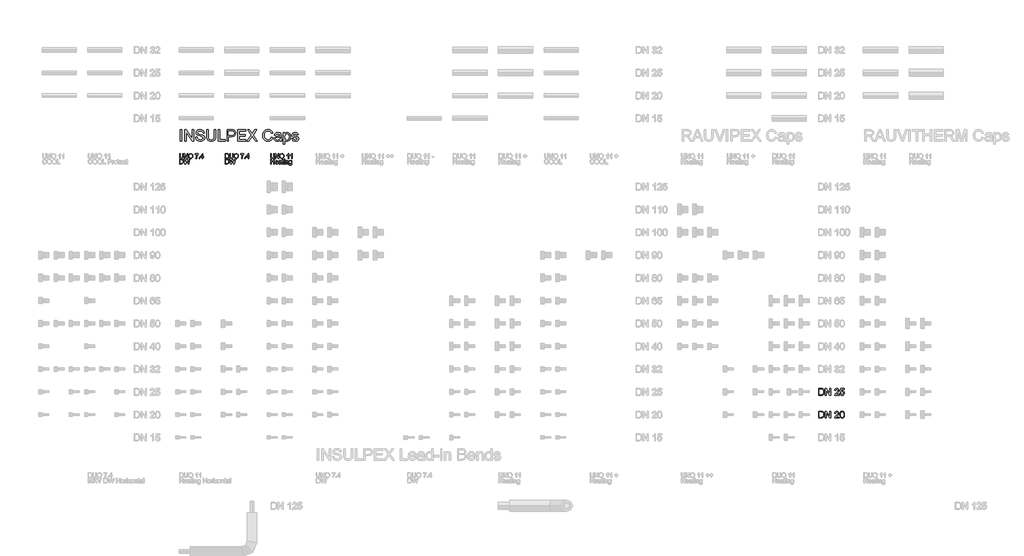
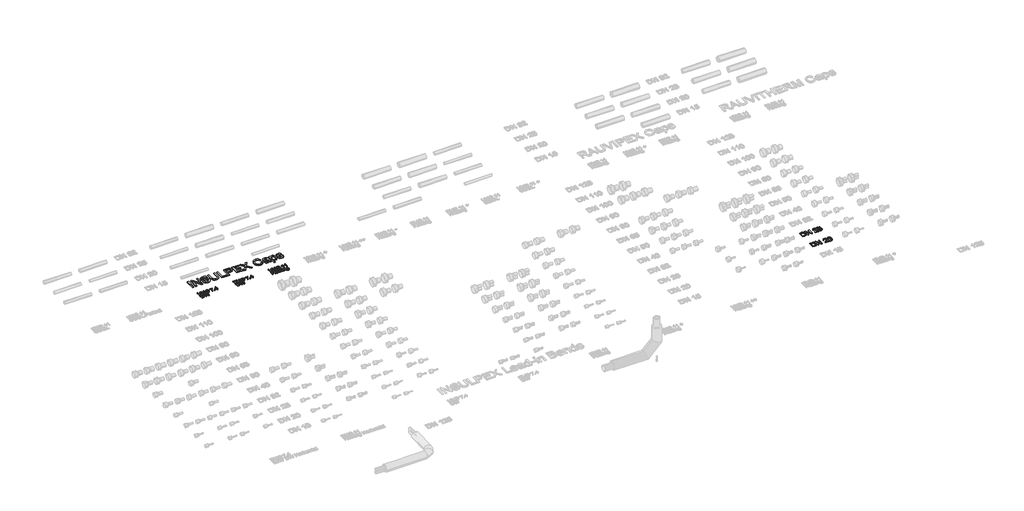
# One storey, part 23 of 44: 6 proxies.
"""IFC4 building model written with IfcOpenShell, lengths in millimetres."""

from ifc_helpers import new_model, si_unit, origin, origin_with_axes, place, context, project, spatial, polyline, outline, extrude, element, save

model = new_model("IFC4")

# Units and contexts
model_context = context("Model", 3, world=origin())
ifc_project = project(units=[si_unit("LENGTHUNIT", "METRE", prefix="MILLI")], contexts=[model_context])

# Site, building, storey
site = spatial("IfcSite", under=ifc_project)
building = spatial("IfcBuilding", under=site)
storey = spatial("IfcBuildingStorey", under=building, Name="REHAU Starting view", Elevation=0.0)

# Proxies
placement = place(None, origin())
element("IfcBuildingElementProxy", 1, Name="100", ObjectType="100", at=placement, inside=storey, context=model_context, shape_type="SweptSolid", body=[
    extrude(outline(polyline([(16076.9118625, 13222.431128), (16089.4689012, 13222.431128), (16089.4689012, 13164.477451), (16086.0598614, 13140.4547567), (16073.7726028, 13125.9847316), (16063.5086951, 13121.8000739), (16050.4734097, 13120.405188), (16027.529836, 13125.2612303), (16019.8901532, 13131.2055902), (16014.8011189, 13139.3265853), (16010.9874089, 13164.477451), (16010.9874089, 13222.431128), (16023.5444477, 13222.431128), (16023.5444477, 13164.9189094), (16026.0215198, 13145.7767829), (16034.5318566, 13136.2976902), (16049.2961874, 13132.9622268), (16062.067824, 13134.6115644), (16070.5597667, 13139.5595772), (16075.3238385, 13149.1980855), (16076.9118625, 13164.9189094), (16076.9118625, 13222.431128)])), origin_with_axes(), (0.0, 0.0, 1.0), 20.0),
    extrude(outline(polyline([(16111.4437191, 13121.9748178), (16111.4437191, 13222.431128), (16124.8836746, 13222.431128), (16177.3681726, 13142.8459897), (16177.3681726, 13222.431128), (16189.9252114, 13222.431128), (16189.9252114, 13121.9748178), (16176.4852558, 13121.9748178), (16124.0007578, 13201.5844816), (16124.0007578, 13121.9748178), (16111.4437191, 13121.9748178)])), origin_with_axes(), (0.0, 0.0, 1.0), 20.0),
    extrude(outline(polyline([(16207.1911397, 13170.8785977), (16210.5388658, 13193.0925389), (16220.5820443, 13209.8986147), (16235.9165921, 13220.4752221), (16255.1384264, 13224.0007578), (16268.3147332, 13222.3452889), (16280.1298766, 13217.3788819), (16289.9400631, 13209.4510249), (16297.1014993, 13198.9112058), (16301.479295, 13186.2683279), (16302.9385603, 13172.0312947), (16301.402653, 13157.6041891), (16296.794931, 13144.7835015), (16289.369846, 13134.2252883), (16279.3818499, 13126.5856055), (16267.667874, 13121.9502924), (16255.06485, 13120.405188), (16241.6862081, 13122.1127736), (16229.8036197, 13127.2355304), (16220.0179586, 13135.3105402), (16212.9300988, 13145.8748848), (16207.1911397, 13170.8785977)]), holes=[polyline([(16219.7481785, 13170.7559704), (16222.2589731, 13155.0412778), (16229.7913569, 13143.0667189), (16241.1129253, 13135.4883498), (16254.9912736, 13132.9622268), (16269.071957, 13135.5128753), (16280.4119195, 13143.1648208), (16287.889121, 13155.5072617), (16290.3815215, 13172.1293965), (16286.1140904, 13192.8534156), (16273.6428907, 13206.575414), (16255.2120028, 13211.4437191), (16241.7046022, 13209.0984714), (16230.2205526, 13202.0627282), (16222.366272, 13189.5455433), (16219.7481785, 13170.7559704)])]), origin_with_axes(), (0.0, 0.0, 1.0), 20.0),
    extrude(outline(polyline([(16354.7363452, 13208.3044594), (16354.7363452, 13220.8614981), (16420.6607988, 13220.8614981), (16420.6607988, 13210.7079551), (16401.9601307, 13183.6931539), (16387.6495211, 13149.2716619), (16382.9896824, 13121.9748178), (16370.4326437, 13121.9748178), (16375.4235761, 13150.3017315), (16389.121049, 13182.3197278), (16408.10376, 13208.3044594), (16354.7363452, 13208.3044594)])), origin_with_axes(), (0.0, 0.0, 1.0), 20.0),
    extrude(outline(polyline([(16437.9267271, 13121.9748178), (16437.9267271, 13134.5318566), (16450.4837658, 13134.5318566), (16450.4837658, 13121.9748178), (16437.9267271, 13121.9748178)])), origin_with_axes(), (0.0, 0.0, 1.0), 20.0),
    extrude(outline(polyline([(16511.6993298, 13121.9748178), (16511.6993298, 13145.5192655), (16466.1800643, 13145.5192655), (16466.1800643, 13158.0763043), (16514.8385895, 13220.8614981), (16524.2563686, 13220.8614981), (16524.2563686, 13158.0763043), (16536.8134074, 13158.0763043), (16536.8134074, 13145.5192655), (16524.2563686, 13145.5192655), (16524.2563686, 13121.9748178), (16511.6993298, 13121.9748178)]), holes=[polyline([(16511.6993298, 13158.0763043), (16511.6993298, 13196.8755921), (16481.6311081, 13158.0763043), (16511.6993298, 13158.0763043)])]), origin_with_axes(), (0.0, 0.0, 1.0), 20.0),
    extrude(outline(polyline([(16010.9874089, 13000.0), (16010.9874089, 13100.4563101), (16045.6418929, 13100.4563101), (16063.5700088, 13099.0093076), (16078.3343395, 13091.823346), (16090.2291907, 13074.6555196), (16094.1777908, 13050.7677153), (16091.5045149, 13030.4974174), (16084.6373844, 13015.8679767), (16075.4648599, 13006.756766), (16063.4596442, 13001.7167826), (16047.3096246, 13000.0), (16010.9874089, 13000.0)]), holes=[polyline([(16023.5444477, 13012.5570388), (16045.7645202, 13012.5570388), (16061.9268025, 13014.3719233), (16071.2464797, 13019.4977457), (16078.8861625, 13031.9689454), (16081.620752, 13050.9639191), (16080.2810484, 13064.6491293), (16076.2619376, 13074.7536214), (16063.2266522, 13085.8881831), (16045.4211637, 13087.8992714), (16023.5444477, 13087.8992714), (16023.5444477, 13012.5570388)])]), origin_with_axes(), (0.0, 0.0, 1.0), 20.0),
    extrude(outline(polyline([(16129.4208859, 13000.0), (16102.02594, 13100.4563101), (16114.9753862, 13100.4563101), (16130.8678884, 13034.4337547), (16135.7729817, 13014.0530922), (16141.0214315, 13032.07931), (16160.9361102, 13100.4563101), (16179.59999, 13100.4563101), (16194.0700152, 13050.8903427), (16204.8366949, 13014.0530922), (16209.5946354, 13033.8451436), (16225.6342904, 13100.4563101), (16238.5837366, 13100.4563101), (16211.1642652, 13000.0), (16197.7488351, 13000.0), (16173.6648272, 13077.5004737), (16170.3048383, 13088.3162043), (16166.5279165, 13075.2931817), (16144.5776241, 13000.0), (16129.4208859, 13000.0)])), origin_with_axes(), (0.0, 0.0, 1.0), 20.0),
])
element("IfcBuildingElementProxy", 2, Name="100", ObjectType="100", at=placement, inside=storey, context=model_context, shape_type="SweptSolid", body=[
    extrude(outline(polyline([(17010.9874089, 13121.9748178), (17010.9874089, 13222.431128), (17045.6418929, 13222.431128), (17063.5700088, 13220.9841255), (17078.3343395, 13213.7981638), (17090.2291907, 13196.6303374), (17094.1777908, 13172.7425332), (17091.5045149, 13152.4722352), (17084.6373844, 13137.8427946), (17075.4648599, 13128.7315838), (17063.4596442, 13123.6916005), (17047.3096246, 13121.9748178), (17010.9874089, 13121.9748178)]), holes=[polyline([(17023.5444477, 13134.5318566), (17045.7645202, 13134.5318566), (17061.9268025, 13136.3467411), (17071.2464797, 13141.4725636), (17078.8861625, 13153.9437632), (17081.620752, 13172.9387369), (17080.2810484, 13186.6239471), (17076.2619376, 13196.7284393), (17063.2266522, 13207.863001), (17045.4211637, 13209.8740892), (17023.5444477, 13209.8740892), (17023.5444477, 13134.5318566)])]), origin_with_axes(), (0.0, 0.0, 1.0), 20.0),
    extrude(outline(polyline([(17177.3681726, 13222.431128), (17189.9252114, 13222.431128), (17189.9252114, 13164.477451), (17186.5161716, 13140.4547567), (17174.2289129, 13125.9847316), (17163.9650053, 13121.8000739), (17150.9297199, 13120.405188), (17127.9861461, 13125.2612303), (17120.3464634, 13131.2055902), (17115.2574291, 13139.3265853), (17111.4437191, 13164.477451), (17111.4437191, 13222.431128), (17124.0007578, 13222.431128), (17124.0007578, 13164.9189094), (17126.4778299, 13145.7767829), (17134.9881668, 13136.2976902), (17149.7524975, 13132.9622268), (17162.5241341, 13134.6115644), (17171.0160768, 13139.5595772), (17175.7801487, 13149.1980855), (17177.3681726, 13164.9189094), (17177.3681726, 13222.431128)])), origin_with_axes(), (0.0, 0.0, 1.0), 20.0),
    extrude(outline(polyline([(17207.1911397, 13170.8785977), (17210.5388658, 13193.0925389), (17220.5820443, 13209.8986147), (17235.9165921, 13220.4752221), (17255.1384264, 13224.0007578), (17268.3147332, 13222.3452889), (17280.1298766, 13217.3788819), (17289.9400631, 13209.4510249), (17297.1014993, 13198.9112058), (17301.479295, 13186.2683279), (17302.9385603, 13172.0312947), (17301.402653, 13157.6041891), (17296.794931, 13144.7835015), (17289.369846, 13134.2252883), (17279.3818499, 13126.5856055), (17267.667874, 13121.9502924), (17255.06485, 13120.405188), (17241.6862081, 13122.1127736), (17229.8036197, 13127.2355304), (17220.0179586, 13135.3105402), (17212.9300988, 13145.8748848), (17207.1911397, 13170.8785977)]), holes=[polyline([(17219.7481785, 13170.7559704), (17222.2589731, 13155.0412778), (17229.7913569, 13143.0667189), (17241.1129253, 13135.4883498), (17254.9912736, 13132.9622268), (17269.071957, 13135.5128753), (17280.4119195, 13143.1648208), (17287.889121, 13155.5072617), (17290.3815215, 13172.1293965), (17286.1140904, 13192.8534156), (17273.6428907, 13206.575414), (17255.2120028, 13211.4437191), (17241.7046022, 13209.0984714), (17230.2205526, 13202.0627282), (17222.366272, 13189.5455433), (17219.7481785, 13170.7559704)])]), origin_with_axes(), (0.0, 0.0, 1.0), 20.0),
    extrude(outline(polyline([(17354.7363452, 13208.3044594), (17354.7363452, 13220.8614981), (17420.6607988, 13220.8614981), (17420.6607988, 13210.7079551), (17401.9601307, 13183.6931539), (17387.6495211, 13149.2716619), (17382.9896824, 13121.9748178), (17370.4326437, 13121.9748178), (17375.4235761, 13150.3017315), (17389.121049, 13182.3197278), (17408.10376, 13208.3044594), (17354.7363452, 13208.3044594)])), origin_with_axes(), (0.0, 0.0, 1.0), 20.0),
    extrude(outline(polyline([(17437.9267271, 13121.9748178), (17437.9267271, 13134.5318566), (17450.4837658, 13134.5318566), (17450.4837658, 13121.9748178), (17437.9267271, 13121.9748178)])), origin_with_axes(), (0.0, 0.0, 1.0), 20.0),
    extrude(outline(polyline([(17511.6993298, 13121.9748178), (17511.6993298, 13145.5192655), (17466.1800643, 13145.5192655), (17466.1800643, 13158.0763043), (17514.8385895, 13220.8614981), (17524.2563686, 13220.8614981), (17524.2563686, 13158.0763043), (17536.8134074, 13158.0763043), (17536.8134074, 13145.5192655), (17524.2563686, 13145.5192655), (17524.2563686, 13121.9748178), (17511.6993298, 13121.9748178)]), holes=[polyline([(17511.6993298, 13158.0763043), (17511.6993298, 13196.8755921), (17481.6311081, 13158.0763043), (17511.6993298, 13158.0763043)])]), origin_with_axes(), (0.0, 0.0, 1.0), 20.0),
    extrude(outline(polyline([(17010.9874089, 13000.0), (17010.9874089, 13100.4563101), (17045.6418929, 13100.4563101), (17063.5700088, 13099.0093076), (17078.3343395, 13091.823346), (17090.2291907, 13074.6555196), (17094.1777908, 13050.7677153), (17091.5045149, 13030.4974174), (17084.6373844, 13015.8679767), (17075.4648599, 13006.756766), (17063.4596442, 13001.7167826), (17047.3096246, 13000.0), (17010.9874089, 13000.0)]), holes=[polyline([(17023.5444477, 13012.5570388), (17045.7645202, 13012.5570388), (17061.9268025, 13014.3719233), (17071.2464797, 13019.4977457), (17078.8861625, 13031.9689454), (17081.620752, 13050.9639191), (17080.2810484, 13064.6491293), (17076.2619376, 13074.7536214), (17063.2266522, 13085.8881831), (17045.4211637, 13087.8992714), (17023.5444477, 13087.8992714), (17023.5444477, 13012.5570388)])]), origin_with_axes(), (0.0, 0.0, 1.0), 20.0),
    extrude(outline(polyline([(17129.4208859, 13000.0), (17102.02594, 13100.4563101), (17114.9753862, 13100.4563101), (17130.8678884, 13034.4337547), (17135.7729817, 13014.0530922), (17141.0214315, 13032.07931), (17160.9361102, 13100.4563101), (17179.59999, 13100.4563101), (17194.0700152, 13050.8903427), (17204.8366949, 13014.0530922), (17209.5946354, 13033.8451436), (17225.6342904, 13100.4563101), (17238.5837366, 13100.4563101), (17211.1642652, 13000.0), (17197.7488351, 13000.0), (17173.6648272, 13077.5004737), (17170.3048383, 13088.3162043), (17166.5279165, 13075.2931817), (17144.5776241, 13000.0), (17129.4208859, 13000.0)])), origin_with_axes(), (0.0, 0.0, 1.0), 20.0),
])
element("IfcBuildingElementProxy", 3, Name="100", ObjectType="100", at=placement, inside=storey, context=model_context, shape_type="SweptSolid", body=[
    extrude(outline(polyline([(18076.9118625, 13222.431128), (18089.4689012, 13222.431128), (18089.4689012, 13164.477451), (18086.0598614, 13140.4547567), (18073.7726028, 13125.9847316), (18063.5086951, 13121.8000739), (18050.4734097, 13120.405188), (18027.529836, 13125.2612303), (18019.8901532, 13131.2055902), (18014.8011189, 13139.3265853), (18010.9874089, 13164.477451), (18010.9874089, 13222.431128), (18023.5444477, 13222.431128), (18023.5444477, 13164.9189094), (18026.0215198, 13145.7767829), (18034.5318566, 13136.2976902), (18049.2961874, 13132.9622268), (18062.067824, 13134.6115644), (18070.5597667, 13139.5595772), (18075.3238385, 13149.1980855), (18076.9118625, 13164.9189094), (18076.9118625, 13222.431128)])), origin_with_axes(), (0.0, 0.0, 1.0), 20.0),
    extrude(outline(polyline([(18111.4437191, 13121.9748178), (18111.4437191, 13222.431128), (18124.8836746, 13222.431128), (18177.3681726, 13142.8459897), (18177.3681726, 13222.431128), (18189.9252114, 13222.431128), (18189.9252114, 13121.9748178), (18176.4852558, 13121.9748178), (18124.0007578, 13201.5844816), (18124.0007578, 13121.9748178), (18111.4437191, 13121.9748178)])), origin_with_axes(), (0.0, 0.0, 1.0), 20.0),
    extrude(outline(polyline([(18207.1911397, 13170.8785977), (18210.5388658, 13193.0925389), (18220.5820443, 13209.8986147), (18235.9165921, 13220.4752221), (18255.1384264, 13224.0007578), (18268.3147332, 13222.3452889), (18280.1298766, 13217.3788819), (18289.9400631, 13209.4510249), (18297.1014993, 13198.9112058), (18301.479295, 13186.2683279), (18302.9385603, 13172.0312947), (18301.402653, 13157.6041891), (18296.794931, 13144.7835015), (18289.369846, 13134.2252883), (18279.3818499, 13126.5856055), (18267.667874, 13121.9502924), (18255.06485, 13120.405188), (18241.6862081, 13122.1127736), (18229.8036197, 13127.2355304), (18220.0179586, 13135.3105402), (18212.9300988, 13145.8748848), (18207.1911397, 13170.8785977)]), holes=[polyline([(18219.7481785, 13170.7559704), (18222.2589731, 13155.0412778), (18229.7913569, 13143.0667189), (18241.1129253, 13135.4883498), (18254.9912736, 13132.9622268), (18269.071957, 13135.5128753), (18280.4119195, 13143.1648208), (18287.889121, 13155.5072617), (18290.3815215, 13172.1293965), (18286.1140904, 13192.8534156), (18273.6428907, 13206.575414), (18255.2120028, 13211.4437191), (18241.7046022, 13209.0984714), (18230.2205526, 13202.0627282), (18222.366272, 13189.5455433), (18219.7481785, 13170.7559704)])]), origin_with_axes(), (0.0, 0.0, 1.0), 20.0),
    extrude(outline(polyline([(18401.8252406, 13121.9748178), (18389.2682018, 13121.9748178), (18389.2682018, 13200.2601064), (18377.3733507, 13191.7865578), (18364.1541243, 13185.4467247), (18364.1541243, 13197.3170505), (18382.5604868, 13209.0647488), (18393.7318367, 13222.431128), (18401.8252406, 13222.431128), (18401.8252406, 13121.9748178)])), origin_with_axes(), (0.0, 0.0, 1.0), 20.0),
    extrude(outline(polyline([(18478.7371031, 13121.9748178), (18466.1800643, 13121.9748178), (18466.1800643, 13200.2601064), (18454.2852131, 13191.7865578), (18441.0659868, 13185.4467247), (18441.0659868, 13197.3170505), (18459.4723492, 13209.0647488), (18470.6436992, 13222.431128), (18478.7371031, 13222.431128), (18478.7371031, 13121.9748178)])), origin_with_axes(), (0.0, 0.0, 1.0), 20.0),
    extrude(outline(polyline([(18010.9874089, 13000.0), (18010.9874089, 13100.4563101), (18023.5444477, 13100.4563101), (18023.5444477, 13059.6459342), (18076.9118625, 13059.6459342), (18076.9118625, 13100.4563101), (18089.4689012, 13100.4563101), (18089.4689012, 13000.0), (18076.9118625, 13000.0), (18076.9118625, 13047.0888954), (18023.5444477, 13047.0888954), (18023.5444477, 13000.0), (18010.9874089, 13000.0)])), origin_with_axes(), (0.0, 0.0, 1.0), 20.0),
    extrude(outline(polyline([(18161.5247213, 13021.9748178), (18173.8365055, 13020.405188), (18169.4004617, 13011.1284304), (18162.321799, 13004.1938547), (18152.7599328, 12999.8712413), (18140.8742787, 12998.4303702), (18126.1406048, 13000.9166393), (18114.803708, 13008.3754468), (18107.5748268, 13020.3224146), (18105.1651997, 13036.2731647), (18107.5993522, 13052.7604095), (18114.9018098, 13065.0905877), (18126.0854225, 13072.7793214), (18140.1630402, 13075.3422326), (18153.8022651, 13072.7854527), (18164.7007692, 13065.1151131), (18171.846877, 13052.8094604), (18174.2289129, 13036.3467411), (18174.1553365, 13032.9622268), (18117.7222385, 13032.9622268), (18119.8958079, 13023.5628418), (18124.9449883, 13016.6527916), (18132.2321175, 13012.4037546), (18141.1195333, 13010.9874089), (18153.4313175, 13013.6116338), (18161.5247213, 13021.9748178)]), holes=[polyline([(18117.7222385, 13045.5192655), (18161.6718741, 13045.5192655), (18156.6441535, 13056.8990819), (18149.3233018, 13061.3136659), (18140.1139892, 13062.7851938), (18124.6506827, 13058.088567), (18119.7854433, 13052.5979283), (18117.7222385, 13045.5192655)])]), origin_with_axes(), (0.0, 0.0, 1.0), 20.0),
    extrude(outline(polyline([(18233.8748471, 13009.4177791), (18221.697953, 13000.9074423), (18208.2457347, 12998.4303702), (18197.7519008, 12999.9202922), (18190.0110505, 13004.3900585), (18185.2377816, 13011.1774813), (18183.646692, 13019.6203731), (18186.0501877, 13029.5531869), (18192.3654953, 13036.7636741), (18201.157875, 13040.8839524), (18212.0226566, 13042.7724133), (18233.8012707, 13047.0888954), (18233.8748471, 13049.8847985), (18230.4167563, 13059.1554248), (18216.5353424, 13062.7851938), (18203.8311508, 13060.3694354), (18197.7733606, 13051.7977849), (18185.2163218, 13053.3674148), (18190.6487126, 13065.6301479), (18201.5870706, 13072.8161096), (18218.1540231, 13075.3422326), (18233.372075, 13073.1104152), (18241.968251, 13067.5063461), (18245.8187492, 13058.9837466), (18246.4318858, 13047.9963376), (18246.4318858, 13032.3736156), (18247.069548, 13010.5582133), (18249.5711455, 13000.0), (18237.0141068, 13000.0), (18233.8748471, 13009.4177791)]), holes=[polyline([(18233.8748471, 13034.5318566), (18213.6168119, 13030.6813584), (18202.8133439, 13028.6457447), (18197.9205134, 13025.3348067), (18196.2037308, 13020.5032899), (18199.9438644, 13013.7097357), (18210.9190106, 13010.9874089), (18223.6232021, 13013.9917785), (18231.8147079, 13021.2635793), (18233.8012707, 13030.975664), (18233.8748471, 13034.5318566)])]), origin_with_axes(), (0.0, 0.0, 1.0), 20.0),
    extrude(outline(polyline([(18290.3815215, 13010.4723741), (18291.9511514, 12999.632118), (18282.5578978, 12998.4303702), (18272.0364727, 13000.5150348), (18266.7880229, 13005.9842138), (18265.267444, 13020.2335097), (18265.267444, 13061.215564), (18255.8496649, 13061.215564), (18255.8496649, 13073.7726028), (18265.267444, 13073.7726028), (18265.267444, 13091.7007187), (18277.8244828, 13099.082884), (18277.8244828, 13073.7726028), (18290.3815215, 13073.7726028), (18290.3815215, 13061.215564), (18277.8244828, 13061.215564), (18277.8244828, 13020.6013917), (18278.4866703, 13014.1266686), (18280.6326487, 13011.8335375), (18284.9123425, 13010.9874089), (18290.3815215, 13010.4723741)])), origin_with_axes(), (0.0, 0.0, 1.0), 20.0),
    extrude(outline(polyline([(18302.9385603, 13087.8992714), (18302.9385603, 13100.4563101), (18315.4955991, 13100.4563101), (18315.4955991, 13087.8992714), (18302.9385603, 13087.8992714)])), origin_with_axes(), (0.0, 0.0, 1.0), 20.0),
    extrude(outline(polyline([(18302.9385603, 13000.0), (18302.9385603, 13073.7726028), (18315.4955991, 13073.7726028), (18315.4955991, 13000.0), (18302.9385603, 13000.0)])), origin_with_axes(), (0.0, 0.0, 1.0), 20.0),
    extrude(outline(polyline([(18334.3311572, 13000.0), (18334.3311572, 13073.7726028), (18346.888196, 13073.7726028), (18346.888196, 13063.4719069), (18356.4899161, 13072.3746512), (18369.5987778, 13075.3422326), (18381.4568408, 13072.9509996), (18389.5502447, 13066.6724803), (18393.3149038, 13057.4386422), (18393.9770914, 13045.2985363), (18393.9770914, 13000.0), (18381.4200526, 13000.0), (18381.4200526, 13043.6062792), (18379.9730501, 13054.7163154), (18374.8594904, 13060.5901646), (18366.2387889, 13062.7851938), (18352.6148924, 13057.8555751), (18348.3198701, 13050.712533), (18346.888196, 13039.1426443), (18346.888196, 13000.0), (18334.3311572, 13000.0)])), origin_with_axes(), (0.0, 0.0, 1.0), 20.0),
    extrude(outline(polyline([(18408.10376, 12993.7214806), (18420.6607988, 12992.1518508), (18424.7320262, 12985.5299749), (18436.9211829, 12982.7340717), (18449.7725273, 12985.8978569), (18455.9038939, 12994.7760757), (18456.7622852, 13009.4177791), (18447.9208546, 13002.3544448), (18437.1419121, 13000.0), (18424.1955316, 13002.7407209), (18414.5416949, 13010.9628835), (18408.5360213, 13023.0171502), (18406.5341301, 13037.2541834), (18410.127111, 13056.7151409), (18420.5259087, 13070.4861903), (18436.5287755, 13075.3422326), (18447.7307822, 13072.5953804), (18456.7622852, 13064.3548237), (18456.7622852, 13073.7726028), (18469.319324, 13073.7726028), (18469.319324, 13010.0799667), (18465.8857587, 12985.6893904), (18455.0087144, 12974.3463622), (18436.6759283, 12970.1770329), (18424.9926092, 12971.6454952), (18415.7924937, 12976.0508821), (18409.8910533, 12983.4054563), (18408.10376, 12993.7214806)]), holes=[polyline([(18419.0911689, 13038.1125747), (18420.4308725, 13026.5948026), (18424.4499833, 13018.6761426), (18430.4924451, 13014.0868147), (18437.9022016, 13012.5570388), (18445.2567758, 13014.0776177), (18451.3298944, 13018.6393544), (18455.4041875, 13026.4568468), (18456.7622852, 13037.7446927), (18455.3643336, 13048.6309341), (18451.1704789, 13056.4698863), (18445.0084555, 13061.2063669), (18437.7059979, 13062.7851938), (18430.5353646, 13061.2308924), (18424.5235597, 13056.5679881), (18420.4492666, 13048.8455319), (18419.0911689, 13038.1125747)])]), origin_with_axes(), (0.0, 0.0, 1.0), 20.0),
])
element("IfcBuildingElementProxy", 4, Name="150", ObjectType="150", at=placement, inside=storey, context=model_context, shape_type="SweptSolid", body=[
    extrude(outline(polyline([(30016.4811134, 7425.0), (30016.4811134, 7575.6844652), (30068.4628393, 7575.6844652), (30095.3550131, 7573.5139615), (30117.5015093, 7562.735019), (30127.9217668, 7551.2571007), (30135.343786, 7536.9832793), (30139.7859611, 7520.1894663), (30141.2666861, 7501.151573), (30137.2567724, 7470.7461261), (30126.9560765, 7448.8019651), (30113.1972899, 7435.135149), (30095.1894663, 7427.575174), (30070.9644369, 7425.0), (30016.4811134, 7425.0)]), holes=[polyline([(30035.3166715, 7443.8355582), (30068.6467803, 7443.8355582), (30092.8902038, 7446.5578849), (30106.8697196, 7454.2466186), (30118.3292437, 7472.9534181), (30122.431128, 7501.4458786), (30120.4215726, 7521.9736939), (30114.3929064, 7537.1304321), (30105.4855636, 7547.5414926), (30094.8399784, 7553.8322747), (30068.1317455, 7556.8489071), (30035.3166715, 7556.8489071), (30035.3166715, 7443.8355582)])]), origin_with_axes(), (0.0, 0.0, 1.0), 20.0),
    extrude(outline(polyline([(30167.1655786, 7425.0), (30167.1655786, 7575.6844652), (30187.3255119, 7575.6844652), (30266.0522589, 7456.3067578), (30266.0522589, 7575.6844652), (30284.8878171, 7575.6844652), (30284.8878171, 7425.0), (30264.7278837, 7425.0), (30186.0011368, 7544.4144956), (30186.0011368, 7425.0), (30167.1655786, 7425.0)])), origin_with_axes(), (0.0, 0.0, 1.0), 20.0),
    extrude(outline(polyline([(30466.1800643, 7443.8355582), (30466.1800643, 7425.0), (30367.293384, 7425.0), (30369.316735, 7437.9862344), (30380.757865, 7457.9806209), (30404.3391009, 7479.8144173), (30436.8598693, 7511.1947515), (30442.9575133, 7522.0104821), (30444.9900614, 7532.5319072), (30443.0724765, 7541.9634818), (30437.3197218, 7549.8039669), (30428.4767583, 7555.087672), (30417.2885471, 7556.8489071), (30405.5393159, 7555.1290587), (30396.4112439, 7549.9695138), (30390.5205335, 7541.7749423), (30388.4833869, 7530.9500146), (30369.6478288, 7533.3044594), (30374.214164, 7551.5238152), (30384.0871971, 7564.8319464), (30398.7518931, 7572.9713355), (30417.6932173, 7575.6844652), (30436.7724973, 7572.6678329), (30451.4096022, 7563.6179358), (30460.7216152, 7550.0982725), (30463.8256195, 7533.6723414), (30460.4778934, 7515.8116705), (30449.349463, 7497.3439944), (30422.3653187, 7471.5370724), (30400.6970691, 7453.4188841), (30392.1989951, 7443.8355582), (30466.1800643, 7443.8355582)])), origin_with_axes(), (0.0, 0.0, 1.0), 20.0),
    extrude(outline(polyline([(30485.0156224, 7499.128222), (30486.3997784, 7523.2474853), (30490.5522465, 7542.4831152), (30497.4316398, 7557.1294171), (30506.9965717, 7567.4806967), (30519.31602, 7573.6335231), (30534.4589626, 7575.6844652), (30556.4583059, 7570.8284229), (30571.6518323, 7556.830513), (30580.4810002, 7534.5368641), (30583.9023027, 7499.128222), (30582.5319423, 7475.1469145), (30578.420861, 7455.9572699), (30571.5828544, 7441.2971724), (30562.0317181, 7430.904506), (30549.6846787, 7424.7102929), (30534.4589626, 7422.6455552), (30514.8876404, 7426.2324047), (30500.0252078, 7436.992953), (30488.7680188, 7462.4779783), (30485.0156224, 7499.128222)]), holes=[polyline([(30503.8511806, 7499.1650102), (30506.0584726, 7469.536714), (30512.6803485, 7452.3888145), (30522.5395859, 7444.2080387), (30534.4589626, 7441.4811134), (30546.3783392, 7444.2172357), (30556.2375767, 7452.4256027), (30562.8594526, 7469.5826993), (30565.0667446, 7499.1650102), (30562.933029, 7528.1265203), (30556.5318823, 7545.407777), (30546.6910389, 7553.9886246), (30534.2382334, 7556.8489071), (30522.4476155, 7554.3289154), (30512.9746541, 7546.7689404), (30506.132049, 7528.4116288), (30503.8511806, 7499.1650102)])]), origin_with_axes(), (0.0, 0.0, 1.0), 20.0),
])
element("IfcBuildingElementProxy", 5, Name="150", ObjectType="150", at=placement, inside=storey, context=model_context, shape_type="SweptSolid", body=[
    extrude(outline(polyline([(30016.4811134, 7925.0), (30016.4811134, 8075.6844652), (30068.4628393, 8075.6844652), (30095.3550131, 8073.5139615), (30117.5015093, 8062.735019), (30127.9217668, 8051.2571007), (30135.343786, 8036.9832793), (30139.7859611, 8020.1894663), (30141.2666861, 8001.151573), (30137.2567724, 7970.7461261), (30126.9560765, 7948.8019651), (30113.1972899, 7935.135149), (30095.1894663, 7927.575174), (30070.9644369, 7925.0), (30016.4811134, 7925.0)]), holes=[polyline([(30035.3166715, 7943.8355582), (30068.6467803, 7943.8355582), (30092.8902038, 7946.5578849), (30106.8697196, 7954.2466186), (30118.3292437, 7972.9534181), (30122.431128, 8001.4458786), (30120.4215726, 8021.9736939), (30114.3929064, 8037.1304321), (30105.4855636, 8047.5414926), (30094.8399784, 8053.8322747), (30068.1317455, 8056.8489071), (30035.3166715, 8056.8489071), (30035.3166715, 7943.8355582)])]), origin_with_axes(), (0.0, 0.0, 1.0), 20.0),
    extrude(outline(polyline([(30167.1655786, 7925.0), (30167.1655786, 8075.6844652), (30187.3255119, 8075.6844652), (30266.0522589, 7956.3067578), (30266.0522589, 8075.6844652), (30284.8878171, 8075.6844652), (30284.8878171, 7925.0), (30264.7278837, 7925.0), (30186.0011368, 8044.4144956), (30186.0011368, 7925.0), (30167.1655786, 7925.0)])), origin_with_axes(), (0.0, 0.0, 1.0), 20.0),
    extrude(outline(polyline([(30466.1800643, 7943.8355582), (30466.1800643, 7925.0), (30367.293384, 7925.0), (30369.316735, 7937.9862344), (30380.757865, 7957.9806209), (30404.3391009, 7979.8144173), (30436.8598693, 8011.1947515), (30442.9575133, 8022.0104821), (30444.9900614, 8032.5319072), (30443.0724765, 8041.9634818), (30437.3197218, 8049.8039669), (30428.4767583, 8055.087672), (30417.2885471, 8056.8489071), (30405.5393159, 8055.1290587), (30396.4112439, 8049.9695138), (30390.5205335, 8041.7749423), (30388.4833869, 8030.9500146), (30369.6478288, 8033.3044594), (30374.214164, 8051.5238152), (30384.0871971, 8064.8319464), (30398.7518931, 8072.9713355), (30417.6932173, 8075.6844652), (30436.7724973, 8072.6678329), (30451.4096022, 8063.6179358), (30460.7216152, 8050.0982725), (30463.8256195, 8033.6723414), (30460.4778934, 8015.8116705), (30449.349463, 7997.3439944), (30422.3653187, 7971.5370724), (30400.6970691, 7953.4188841), (30392.1989951, 7943.8355582), (30466.1800643, 7943.8355582)])), origin_with_axes(), (0.0, 0.0, 1.0), 20.0),
    extrude(outline(polyline([(30485.0156224, 7965.0255611), (30503.8511806, 7967.3800058), (30507.3092713, 7956.072233), (30513.3425361, 7947.9742306), (30521.9233836, 7943.1043927), (30533.0242228, 7941.4811134), (30546.525492, 7943.7389891), (30556.6422469, 7950.5126164), (30562.9606202, 7961.0202459), (30565.0667446, 7974.4801284), (30563.0939774, 7987.1536631), (30557.1756758, 7996.8473537), (30547.2658545, 8003.00018), (30533.3185284, 8005.0511222), (30516.7822327, 8001.7769724), (30506.2056254, 7993.2788983), (30487.3700672, 7995.6333431), (30503.8511806, 8073.3300205), (30576.8389684, 8073.3300205), (30576.8389684, 8054.4944623), (30519.0814952, 8054.4944623), (30511.0248795, 8012.9973732), (30524.4801635, 8021.1643535), (30538.5792409, 8023.8866803), (30556.1777959, 8020.511363), (30570.7873096, 8010.3854111), (30580.6235545, 7994.9527614), (30583.9023027, 7975.6573507), (30580.9500497, 7956.8217926), (30572.0932907, 7940.7085612), (30555.1339307, 7927.1613067), (30532.9506464, 7922.6455552), (30514.4507806, 7925.5472245), (30499.7125081, 7934.2522322), (30489.6095489, 7947.7489029), (30485.0156224, 7965.0255611)])), origin_with_axes(), (0.0, 0.0, 1.0), 20.0),
])
element("IfcBuildingElementProxy", 6, Name="250", ObjectType="250", at=placement, inside=storey, context=model_context, shape_type="SweptSolid", body=[
    extrude(outline(polyline([(16031.3925969, 13500.0), (16031.3925969, 13751.1407754), (16062.7851938, 13751.1407754), (16062.7851938, 13500.0), (16031.3925969, 13500.0)])), origin_with_axes(), (0.0, 0.0, 1.0), 20.0),
    extrude(outline(polyline([(16125.5703877, 13500.0), (16125.5703877, 13751.1407754), (16159.1702766, 13751.1407754), (16290.3815215, 13552.1779296), (16290.3815215, 13751.1407754), (16321.7741184, 13751.1407754), (16321.7741184, 13500.0), (16288.1742296, 13500.0), (16156.9629846, 13699.0241594), (16156.9629846, 13500.0), (16125.5703877, 13500.0)])), origin_with_axes(), (0.0, 0.0, 1.0), 20.0),
    extrude(outline(polyline([(16364.9389392, 13586.3296415), (16396.3315361, 13586.3296415), (16399.933714, 13568.9088962), (16406.448291, 13554.9063878), (16416.6110311, 13543.7932858), (16431.1576983, 13535.04076), (16448.9386614, 13529.3615817), (16468.8042892, 13527.4685223), (16486.2940124, 13528.9017292), (16501.6071004, 13533.2013501), (16514.0154536, 13540.007167), (16522.790972, 13548.9589622), (16528.0102978, 13559.2366654), (16529.7500731, 13570.0202064), (16524.5384115, 13589.6099227), (16516.5982917, 13597.3584372), (16503.2012557, 13603.86535), (16457.4919178, 13615.8521716), (16408.287701, 13631.3338723), (16392.6603804, 13641.8951512), (16381.5855995, 13654.694379), (16374.9867162, 13669.455644), (16372.7870884, 13685.9030349), (16375.5078824, 13704.2894704), (16383.6702641, 13721.4343043), (16397.0596359, 13735.9656431), (16415.4613999, 13746.5115936), (16437.549648, 13752.9265359), (16461.9984723, 13755.06485), (16488.4859759, 13752.8269012), (16511.6625416, 13746.1130548), (16530.7004349, 13735.0612665), (16544.7719212, 13719.8094921), (16553.6777312, 13701.3080934), (16557.2185954, 13680.5074323), (16525.8259984, 13680.5074323), (16520.0625138, 13699.2387572), (16508.0450353, 13712.7584205), (16489.2677252, 13720.9437949), (16463.2247456, 13723.6722531), (16436.5686294, 13720.9744518), (16418.2818285, 13712.8810479), (16407.7052212, 13700.9708683), (16404.1796854, 13686.8227399), (16406.6782173, 13674.7592761), (16414.1738129, 13665.0563885), (16431.8934623, 13656.3805048), (16465.4320376, 13647.5206801), (16520.9822188, 13631.7630679), (16538.8781451, 13620.3740545), (16551.3631403, 13606.3178966), (16558.6977876, 13589.7478784), (16561.14267, 13570.8172841), (16558.3299056, 13551.4651583), (16549.8916123, 13533.2626637), (16536.1726796, 13517.5970221), (16517.5179967, 13505.8554551), (16495.0848592, 13498.5208078), (16470.0305625, 13496.0759254), (16439.2740949, 13498.712413), (16413.9592151, 13506.6218759), (16393.7946832, 13519.8349709), (16378.4892594, 13538.3823548), (16368.6637444, 13560.9764407), (16364.9389392, 13586.3296415)])), origin_with_axes(), (0.0, 0.0, 1.0), 20.0),
    extrude(outline(polyline([(16773.0426992, 13751.1407754), (16804.4352961, 13751.1407754), (16804.4352961, 13606.2565829), (16802.3046462, 13572.3271331), (16795.9126966, 13546.1998472), (16783.9718601, 13526.0429796), (16765.19455, 13510.0247844), (16739.5347808, 13499.5631401), (16706.9465674, 13496.0759254), (16675.0711254, 13499.1109518), (16649.587633, 13508.2160312), (16630.4884261, 13523.076931), (16617.7658404, 13543.3794186), (16610.6151341, 13570.6103504), (16608.2315654, 13606.2565829), (16608.2315654, 13751.1407754), (16639.6241623, 13751.1407754), (16639.6241623, 13607.3602289), (16641.1723323, 13579.1482784), (16645.8168425, 13559.5049127), (16654.2321432, 13545.9009431), (16667.0926846, 13535.8071809), (16683.8619722, 13529.5531869), (16704.0035114, 13527.4685223), (16735.9326029, 13531.5918663), (16757.1624597, 13543.9618984), (16764.1100645, 13554.1093101), (16769.0726393, 13568.0581691), (16773.0426992, 13607.3602289), (16773.0426992, 13751.1407754)])), origin_with_axes(), (0.0, 0.0, 1.0), 20.0),
    extrude(outline(polyline([(16859.3723407, 13500.0), (16859.3723407, 13751.1407754), (16890.7649377, 13751.1407754), (16890.7649377, 13531.3925969), (17016.3353253, 13531.3925969), (17016.3353253, 13500.0), (16859.3723407, 13500.0)])), origin_with_axes(), (0.0, 0.0, 1.0), 20.0),
    extrude(outline(polyline([(17051.6519969, 13500.0), (17051.6519969, 13751.1407754), (17144.7261417, 13751.1407754), (17182.2501052, 13748.7495424), (17198.9810717, 13744.281309), (17212.7536539, 13737.0079754), (17223.8437632, 13726.5999806), (17232.5273112, 13712.7277637), (17238.1375116, 13696.3646791), (17240.0075784, 13678.4840813), (17234.9568652, 13648.8849091), (17219.8047255, 13624.221487), (17207.6703678, 13614.5109352), (17191.4701477, 13607.5748268), (17171.2040651, 13603.4131617), (17146.87212, 13602.02594), (17083.0445938, 13602.02594), (17083.0445938, 13500.0), (17051.6519969, 13500.0)]), holes=[polyline([(17083.0445938, 13633.4185369), (17148.7115299, 13633.4185369), (17176.5479342, 13636.3002792), (17194.942034, 13644.9455061), (17205.1967446, 13658.817723), (17208.6149815, 13677.3804353), (17206.5992947, 13691.4825785), (17200.5522344, 13703.3774297), (17191.224893, 13712.3292249), (17179.3683629, 13717.6022001), (17147.9757659, 13719.7481785), (17083.0445938, 13719.7481785), (17083.0445938, 13633.4185369)])]), origin_with_axes(), (0.0, 0.0, 1.0), 20.0),
    extrude(outline(polyline([(17283.1723992, 13500.0), (17283.1723992, 13751.1407754), (17463.6798315, 13751.1407754), (17463.6798315, 13719.7481785), (17314.5649961, 13719.7481785), (17314.5649961, 13645.1907608), (17455.8316822, 13645.1907608), (17455.8316822, 13613.7981638), (17314.5649961, 13613.7981638), (17314.5649961, 13531.3925969), (17467.6039061, 13531.3925969), (17467.6039061, 13500.0), (17283.1723992, 13500.0)])), origin_with_axes(), (0.0, 0.0, 1.0), 20.0),
    extrude(outline(polyline([(17487.2242792, 13500.0), (17584.0385576, 13636.8521022), (17502.9205776, 13751.1407754), (17540.5671685, 13751.1407754), (17586.2458495, 13686.8227399), (17601.6355797, 13661.7454505), (17619.6617974, 13687.2519355), (17664.8499692, 13751.1407754), (17703.048383, 13751.1407754), (17621.9304031, 13636.4842202), (17718.7446815, 13500.0), (17681.0980906, 13500.0), (17616.5961141, 13590.9894801), (17603.1684213, 13609.8740892), (17588.3918278, 13589.1500702), (17525.422693, 13500.0), (17487.2242792, 13500.0)])), origin_with_axes(), (0.0, 0.0, 1.0), 20.0),
    extrude(outline(polyline([(18024.8225015, 13589.2726975), (18056.2150984, 13581.1792936), (18041.7297448, 13544.5980277), (18018.9977032, 13517.8729336), (17989.1379479, 13501.5251774), (17953.2694534, 13496.0759254), (17916.8568001, 13500.1992694), (17887.9397424, 13512.5693015), (17865.7748522, 13532.756826), (17849.6187013, 13560.3326472), (17839.7548653, 13592.752248), (17836.4669199, 13627.4711113), (17840.1840609, 13664.0906983), (17851.3354839, 13695.7132214), (17869.338709, 13721.3346696), (17893.6112565, 13739.9510314), (17922.3980226, 13751.2863953), (17953.9439037, 13755.06485), (17988.3638629, 13750.1750851), (18016.8210681, 13735.5057906), (18038.4264711, 13711.9613429), (18052.2910238, 13680.4461186), (18020.8984268, 13672.9658514), (18010.0152511, 13695.8588414), (17995.1466872, 13711.5628041), (17976.1087939, 13720.6448908), (17952.7176304, 13723.6722531), (17925.7549458, 13720.3153299), (17903.605384, 13710.2445602), (17886.7977754, 13694.5176049), (17875.8609502, 13674.1921247), (17869.8598752, 13651.2148284), (17867.8595168, 13627.532425), (17870.2277572, 13598.531061), (17877.3324782, 13573.4537717), (17889.4419272, 13553.258583), (17906.8243515, 13538.903521), (17927.6633337, 13530.327272), (17950.1424564, 13527.4685223), (17976.3463844, 13531.3619401), (17998.1817136, 13543.0421934), (18014.6674255, 13562.386655), (18024.8225015, 13589.2726975)])), origin_with_axes(), (0.0, 0.0, 1.0), 20.0),
    extrude(outline(polyline([(18213.178083, 13523.5444477), (18198.1792275, 13510.6839063), (18182.7358479, 13502.2686056), (18166.4953906, 13497.6240954), (18149.1053022, 13496.0759254), (18122.8707174, 13499.8007306), (18103.5185916, 13510.9751462), (18091.5854194, 13527.9437032), (18087.6076953, 13549.0509327), (18089.1098801, 13562.0647583), (18093.6164346, 13573.8829674), (18109.4047035, 13591.9091851), (18131.3856527, 13602.209881), (18158.5476067, 13606.9310333), (18212.994142, 13617.7222385), (18213.178083, 13624.7119964), (18211.0167763, 13638.722169), (18204.5328561, 13647.8885621), (18190.0321741, 13654.694379), (18169.8293212, 13656.9629846), (18151.1286531, 13655.4531356), (18138.0688423, 13650.9235885), (18129.1630323, 13642.5466089), (18122.9243668, 13629.4944623), (18091.5317699, 13633.4185369), (18096.981022, 13650.5863634), (18105.1127469, 13664.0753698), (18116.6857013, 13674.3913941), (18132.4586419, 13682.0402739), (18151.749454, 13686.7767546), (18173.8760232, 13688.3555815), (18195.0982158, 13686.9606956), (18211.9211528, 13682.7760379), (18224.6054175, 13676.483723), (18233.4115927, 13668.7658653), (18243.0378383, 13647.4593664), (18244.5706799, 13619.9908441), (18244.5706799, 13580.9340389), (18246.1648352, 13526.3955332), (18252.4188291, 13500.0), (18221.0262322, 13500.0), (18213.178083, 13523.5444477)]), holes=[polyline([(18213.178083, 13586.3296415), (18162.532995, 13576.703396), (18135.5243252, 13571.6143617), (18123.2922488, 13563.3370168), (18119.0002922, 13551.2582247), (18121.3378757, 13541.923219), (18128.3506263, 13534.2743392), (18139.8852597, 13529.1699765), (18155.7884917, 13527.4685223), (18172.6497498, 13529.3462533), (18187.5489707, 13534.9794464), (18199.6277628, 13543.2797839), (18208.0277351, 13553.1589483), (18211.7525403, 13563.3370168), (18212.994142, 13577.43916), (18213.178083, 13586.3296415)])]), origin_with_axes(), (0.0, 0.0, 1.0), 20.0),
    extrude(outline(polyline([(18287.7355007, 13429.3666569), (18287.7355007, 13684.4315069), (18319.1280976, 13684.4315069), (18319.1280976, 13653.6520467), (18329.3674798, 13668.8348432), (18340.8331353, 13679.6796978), (18354.1995145, 13686.1866106), (18370.1410676, 13688.3555815), (18391.3709244, 13685.3205551), (18409.9336367, 13676.2154757), (18425.0474554, 13661.5921664), (18435.9306311, 13642.0024501), (18442.5065217, 13618.8718697), (18444.6984853, 13593.6259678), (18442.222946, 13566.7782463), (18434.7963282, 13542.7662819), (18422.6562224, 13522.8086837), (18406.040219, 13508.1240607), (18386.6880932, 13499.0879592), (18366.3396203, 13496.0759254), (18351.9079162, 13498.0916121), (18339.0243822, 13504.1386724), (18319.1280976, 13524.5254663), (18319.1280976, 13429.3666569), (18287.7355007, 13429.3666569)]), holes=[polyline([(18319.1280976, 13590.7442255), (18322.5233418, 13562.6012528), (18332.7090746, 13542.9195661), (18347.7385869, 13531.3312833), (18365.66517, 13527.4685223), (18383.882993, 13531.469239), (18399.2957157, 13543.4713891), (18409.8033452, 13563.8735114), (18413.3058884, 13593.0741448), (18409.8876515, 13621.0638332), (18399.6329409, 13641.0214315), (18384.6264212, 13652.9775963), (18366.952757, 13656.9629846), (18349.2101149, 13652.7246775), (18333.6287796, 13640.009756), (18322.7532681, 13619.2167591), (18319.1280976, 13590.7442255)])]), origin_with_axes(), (0.0, 0.0, 1.0), 20.0),
    extrude(outline(polyline([(18468.242933, 13554.9370446), (18499.6355299, 13558.8611192), (18504.5866084, 13545.4334264), (18514.1668687, 13535.5619262), (18528.4376244, 13529.4918733), (18547.4601893, 13527.4685223), (18566.2528279, 13529.3232607), (18579.4659228, 13534.8874759), (18587.2834152, 13542.9502229), (18589.889246, 13552.300557), (18587.2680868, 13560.3019904), (18579.4046092, 13566.4027001), (18547.0923073, 13575.3544953), (18499.8194709, 13590.7135686), (18487.8556418, 13598.4314263), (18479.1874223, 13608.6478159), (18473.9221113, 13620.7112797), (18472.1670076, 13633.9703599), (18477.8078648, 13657.3615234), (18493.197595, 13675.234457), (18513.1551932, 13684.5234774), (18540.163863, 13688.3555815), (18560.5966422, 13686.8150757), (18578.3622769, 13682.1935581), (18592.648361, 13674.9432171), (18602.6424885, 13665.516241), (18609.2643645, 13653.2151868), (18613.4336937, 13637.3426115), (18582.0410968, 13633.4185369), (18578.0787012, 13643.2977013), (18570.2382161, 13650.7396475), (18558.4429997, 13655.4071503), (18542.6164097, 13656.9629846), (18524.5901919, 13655.4761282), (18512.5727134, 13651.015559), (18505.8128817, 13644.5776241), (18503.5596045, 13637.1586705), (18507.2997381, 13628.0229343), (18519.0106483, 13621.0944901), (18546.049975, 13614.4113005), (18592.1271948, 13599.634707), (18604.2979575, 13592.568307), (18613.5256642, 13582.8960762), (18619.3427983, 13570.5873578), (18621.281843, 13555.6114949), (18619.0055731, 13540.1297943), (18612.1767636, 13525.5677987), (18601.0559974, 13513.067475), (18585.9038578, 13503.7707905), (18567.6017285, 13497.9996417), (18547.0309936, 13496.0759254), (18515.3778136, 13499.7854022), (18492.27789, 13510.9138325), (18476.857503, 13529.3385891), (18468.242933, 13554.9370446)])), origin_with_axes(), (0.0, 0.0, 1.0), 20.0),
])

save(model, "model.ifc")
